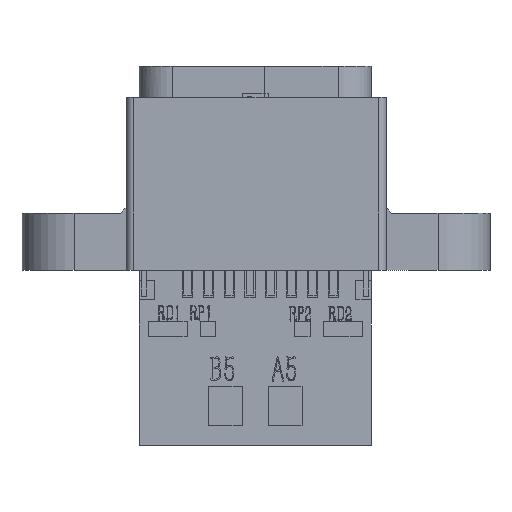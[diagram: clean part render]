
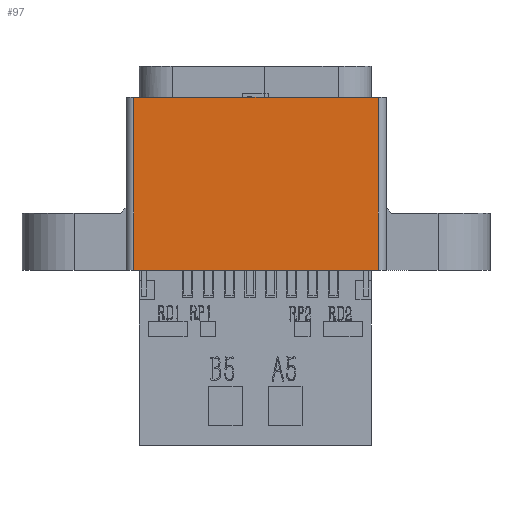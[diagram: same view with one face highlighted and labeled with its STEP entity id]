
A CAD part, front view. The second image highlights one B-rep face of the part: STEP entity #97.
In plain terms, the highlighted planar face has unit normal (0, -1, 0).
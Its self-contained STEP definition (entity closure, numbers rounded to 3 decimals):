
#97 = ADVANCED_FACE ( 'NONE', ( #14714 ), #7078, .T. ) ;
#1961 = LINE ( 'NONE', #15726, #3072 ) ;
#3072 = VECTOR ( 'NONE', #38903, 1000. ) ;
#3296 = LINE ( 'NONE', #16631, #40084 ) ;
#4976 = DIRECTION ( 'NONE',  ( 0., 0., 1. ) ) ;
#6847 = VERTEX_POINT ( 'NONE', #16640 ) ;
#7009 = DIRECTION ( 'NONE',  ( 0., 0., -1. ) ) ;
#7078 = PLANE ( 'NONE',  #34062 ) ;
#9148 = CARTESIAN_POINT ( 'NONE',  ( -3.948, -1.546, -9. ) ) ;
#10863 = EDGE_CURVE ( 'NONE', #6847, #13254, #3296, .T. ) ;
#11259 = ORIENTED_EDGE ( 'NONE', *, *, #15990, .T. ) ;
#11414 = EDGE_CURVE ( 'NONE', #38801, #39223, #22426, .T. ) ;
#11750 = CARTESIAN_POINT ( 'NONE',  ( 5.452, -1.546, -0.9 ) ) ;
#13076 = EDGE_LOOP ( 'NONE', ( #35011, #38538, #11259, #24875 ) ) ;
#13254 = VERTEX_POINT ( 'NONE', #9148 ) ;
#14714 = FACE_OUTER_BOUND ( 'NONE', #13076, .T. ) ;
#15214 = CARTESIAN_POINT ( 'NONE',  ( 5.452, -1.546, -2.35 ) ) ;
#15726 = CARTESIAN_POINT ( 'NONE',  ( -4.618, -1.546, -2.35 ) ) ;
#15990 = EDGE_CURVE ( 'NONE', #13254, #38801, #26809, .T. ) ;
#16631 = CARTESIAN_POINT ( 'NONE',  ( -3.948, -1.546, -0.9 ) ) ;
#16640 = CARTESIAN_POINT ( 'NONE',  ( -3.948, -1.546, -2.35 ) ) ;
#17138 = DIRECTION ( 'NONE',  ( 0., -1., 0. ) ) ;
#17784 = VECTOR ( 'NONE', #4976, 1000. ) ;
#22426 = LINE ( 'NONE', #11750, #17784 ) ;
#24875 = ORIENTED_EDGE ( 'NONE', *, *, #11414, .T. ) ;
#26809 = LINE ( 'NONE', #39721, #31273 ) ;
#28045 = DIRECTION ( 'NONE',  ( 0., 0., -1. ) ) ;
#31273 = VECTOR ( 'NONE', #33153, 1000. ) ;
#33049 = CARTESIAN_POINT ( 'NONE',  ( 5.452, -1.546, -9. ) ) ;
#33153 = DIRECTION ( 'NONE',  ( 1., 0., 0. ) ) ;
#33728 = CARTESIAN_POINT ( 'NONE',  ( -4.618, -1.546, -0.9 ) ) ;
#34062 = AXIS2_PLACEMENT_3D ( 'NONE', #33728, #17138, #28045 ) ;
#35011 = ORIENTED_EDGE ( 'NONE', *, *, #35620, .T. ) ;
#35620 = EDGE_CURVE ( 'NONE', #39223, #6847, #1961, .T. ) ;
#38538 = ORIENTED_EDGE ( 'NONE', *, *, #10863, .T. ) ;
#38801 = VERTEX_POINT ( 'NONE', #33049 ) ;
#38903 = DIRECTION ( 'NONE',  ( -1., 0., 0. ) ) ;
#39223 = VERTEX_POINT ( 'NONE', #15214 ) ;
#39721 = CARTESIAN_POINT ( 'NONE',  ( -4.618, -1.546, -9. ) ) ;
#40084 = VECTOR ( 'NONE', #7009, 1000. ) ;
